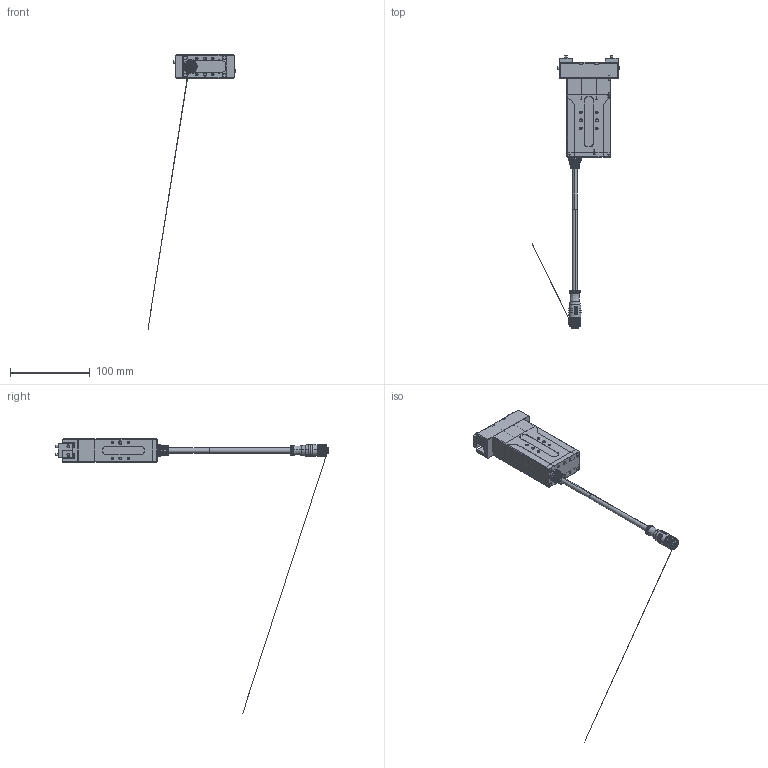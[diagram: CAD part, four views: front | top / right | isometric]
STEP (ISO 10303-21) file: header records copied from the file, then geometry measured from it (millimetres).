
FILE_DESCRIPTION (( 'STEP AP214' ), '1' );
FILE_NAME ('PGE-50-40-W-B-潠眢耀倰.STEP', '2023-08-24T06:54:36', ( '' ), ( '' ), 'SwSTEP 2.0', 'SolidWorks 2020', '' );
FILE_SCHEMA (( 'AUTOMOTIVE_DESIGN' ));
Length unit declared in the file: millimetre
Products named in the file (3): PGE-50-40忒硌; PGE-50-40-W-B-; PGE-50-40-W-B-潠眢耀倰
Assembly tree (3 placements, depth 2):
  PGE-50-40-W-B-潠眢耀倰
    PGE-50-40-W-B-
    PGE-50-40忒硌  x2
Bounding box: 110.26 x 341.3 x 343.59 mm (x, y, z)
Volume: 15613.3 mm3; surface area: 56609.3 mm2
Topology: 6 solids, 23 shells, 1649 faces, 3983 edges, 2476 vertices
Faces by surface type: plane 657, cylinder 395, cone 311, bspline 247, torus 38, sphere 1
Full cylindrical faces by diameter (mm): 11.1 x3
Entity records: 78381 total; most frequent: CARTESIAN_POINT 27425, ORIENTED_EDGE 7394, DIRECTION 6382, EDGE_CURVE 3701, AXIS2_PLACEMENT_3D 2344, VERTEX_POINT 2328, EDGE_LOOP 1719, LINE 1694
